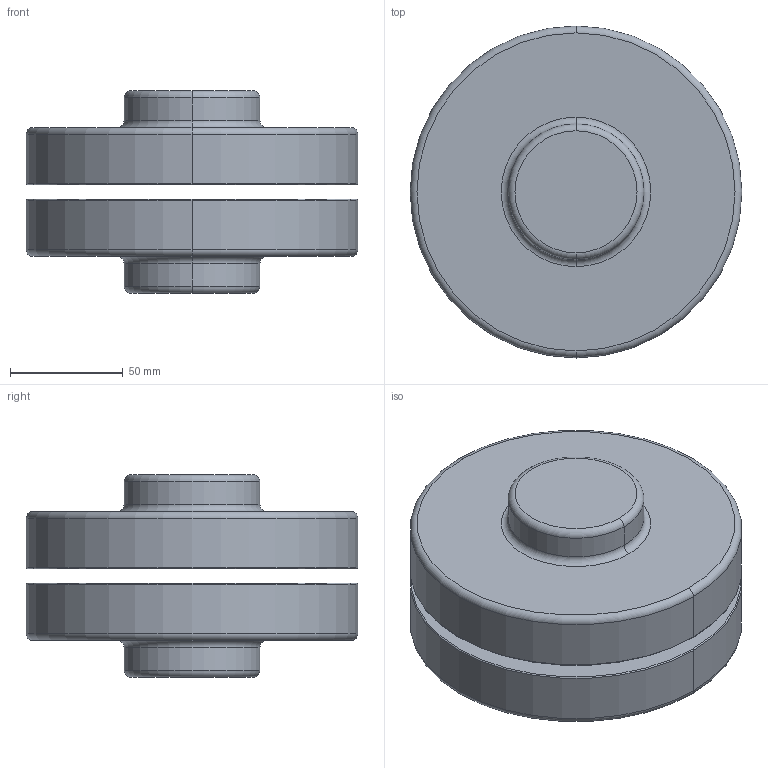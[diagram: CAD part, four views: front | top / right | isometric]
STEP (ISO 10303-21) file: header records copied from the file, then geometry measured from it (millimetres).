
FILE_DESCRIPTION (( 'STEP AP214' ), '1' );
FILE_NAME ('mobac_2x MTD-50 (ohne Bohrung).STEP', '2023-05-09T08:12:49', ( '' ), ( '' ), 'SwSTEP 2.0', 'SolidWorks 2022', '' );
FILE_SCHEMA (( 'AUTOMOTIVE_DESIGN' ));
Length unit declared in the file: millimetre
Products named in the file (1): mobac_2x MTD-50 (ohne Bohrung)
Bounding box: 147.07 x 147.07 x 89.66 mm (x, y, z)
Volume: 918144.7 mm3; surface area: 98130.6 mm2
Topology: 2 solids, 2 shells, 36 faces, 68 edges, 40 vertices
Faces by surface type: torus 16, cylinder 12, plane 8
Entity records: 963 total; most frequent: DIRECTION 198, CARTESIAN_POINT 145, ORIENTED_EDGE 136, AXIS2_PLACEMENT_3D 93, EDGE_CURVE 68, CIRCLE 56, EDGE_LOOP 40, VERTEX_POINT 40
